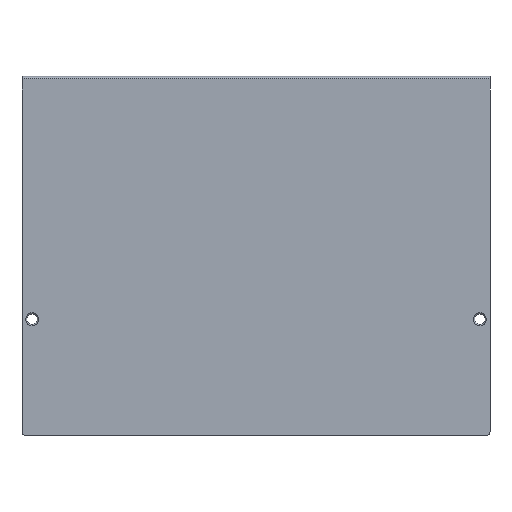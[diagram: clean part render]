
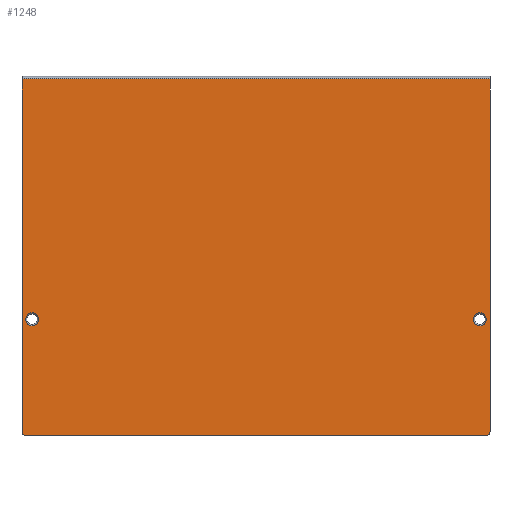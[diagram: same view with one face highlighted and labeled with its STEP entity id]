
A CAD part, front view. The second image highlights one B-rep face of the part: STEP entity #1248.
In plain terms, the highlighted planar face has unit normal (0, -1, 0).
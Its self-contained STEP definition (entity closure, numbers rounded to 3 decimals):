
#118=CARTESIAN_POINT('',(113.6,0.,-175.5));
#119=DIRECTION('',(0.,-1.,0.));
#120=DIRECTION('',(0.,0.,-1.));
#121=AXIS2_PLACEMENT_3D('',#118,#119,#120);
#127=DIRECTION('',(-1.,0.,0.));
#128=VECTOR('',#127,227.2);
#129=CARTESIAN_POINT('',(113.6,0.,-177.5));
#130=LINE('',#129,#128);
#134=CARTESIAN_POINT('',(-113.6,0.,-175.5));
#135=DIRECTION('',(0.,-1.,0.));
#136=DIRECTION('',(-1.,0.,0.));
#137=AXIS2_PLACEMENT_3D('',#134,#135,#136);
#142=DIRECTION('',(0.,0.,1.));
#143=VECTOR('',#142,174.2);
#144=CARTESIAN_POINT('',(-115.6,0.,-175.5));
#145=LINE('',#144,#143);
#149=DIRECTION('',(0.,0.,-1.));
#150=VECTOR('',#149,174.2);
#151=CARTESIAN_POINT('',(115.6,0.,-1.3));
#152=LINE('',#151,#150);
#156=CARTESIAN_POINT('',(-110.6,0.,-120.));
#157=DIRECTION('',(0.,1.,0.));
#158=DIRECTION('',(1.,0.,0.));
#159=AXIS2_PLACEMENT_3D('',#156,#157,#158);
#164=CARTESIAN_POINT('',(-110.6,0.,-120.));
#165=DIRECTION('',(0.,1.,0.));
#166=DIRECTION('',(-1.,0.,0.));
#167=AXIS2_PLACEMENT_3D('',#164,#165,#166);
#172=CARTESIAN_POINT('',(110.6,0.,-120.));
#173=DIRECTION('',(0.,1.,0.));
#174=DIRECTION('',(1.,0.,0.));
#175=AXIS2_PLACEMENT_3D('',#172,#173,#174);
#180=CARTESIAN_POINT('',(110.6,0.,-120.));
#181=DIRECTION('',(0.,1.,0.));
#182=DIRECTION('',(-1.,0.,0.));
#183=AXIS2_PLACEMENT_3D('',#180,#181,#182);
#225=DIRECTION('',(1.,0.,0.));
#226=VECTOR('',#225,231.2);
#227=CARTESIAN_POINT('',(-115.6,0.,-1.3));
#228=LINE('',#227,#226);
#1081=CARTESIAN_POINT('',(-115.6,0.,-1.3));
#1083=VERTEX_POINT('',#1081);
#1085=CARTESIAN_POINT('',(115.6,0.,-1.3));
#1087=VERTEX_POINT('',#1085);
#1161=CARTESIAN_POINT('',(113.6,0.,-177.5));
#1162=CARTESIAN_POINT('',(115.6,0.,-175.5));
#1163=VERTEX_POINT('',#1161);
#1164=VERTEX_POINT('',#1162);
#1169=CARTESIAN_POINT('',(-115.6,0.,-175.5));
#1170=CARTESIAN_POINT('',(-113.6,0.,-177.5));
#1171=VERTEX_POINT('',#1169);
#1172=VERTEX_POINT('',#1170);
#1177=CARTESIAN_POINT('',(-107.4,0.,-120.));
#1178=CARTESIAN_POINT('',(-113.8,0.,-120.));
#1179=VERTEX_POINT('',#1177);
#1180=VERTEX_POINT('',#1178);
#1185=CARTESIAN_POINT('',(113.8,0.,-120.));
#1186=CARTESIAN_POINT('',(107.4,0.,-120.));
#1187=VERTEX_POINT('',#1185);
#1188=VERTEX_POINT('',#1186);
#1217=CARTESIAN_POINT('',(0.,0.,0.));
#1218=DIRECTION('',(0.,1.,0.));
#1219=DIRECTION('',(1.,0.,0.));
#1220=AXIS2_PLACEMENT_3D('',#1217,#1218,#1219);
#1221=PLANE('',#1220);
#1223=ORIENTED_EDGE('',*,*,#1222,.F.);
#1225=ORIENTED_EDGE('',*,*,#1224,.T.);
#1227=ORIENTED_EDGE('',*,*,#1226,.F.);
#1229=ORIENTED_EDGE('',*,*,#1228,.T.);
#1231=ORIENTED_EDGE('',*,*,#1230,.T.);
#1233=ORIENTED_EDGE('',*,*,#1232,.T.);
#1234=EDGE_LOOP('',(#1223,#1225,#1227,#1229,#1231,#1233));
#1235=FACE_OUTER_BOUND('',#1234,.F.);
#1237=ORIENTED_EDGE('',*,*,#1236,.F.);
#1239=ORIENTED_EDGE('',*,*,#1238,.F.);
#1240=EDGE_LOOP('',(#1237,#1239));
#1241=FACE_BOUND('',#1240,.F.);
#1243=ORIENTED_EDGE('',*,*,#1242,.F.);
#1245=ORIENTED_EDGE('',*,*,#1244,.F.);
#1246=EDGE_LOOP('',(#1243,#1245));
#1247=FACE_BOUND('',#1246,.F.);
#122=CIRCLE('',#121,2.);
#138=CIRCLE('',#137,2.);
#160=CIRCLE('',#159,3.2);
#168=CIRCLE('',#167,3.2);
#176=CIRCLE('',#175,3.2);
#184=CIRCLE('',#183,3.2);
#1222=EDGE_CURVE('',#1163,#1164,#122,.T.);
#1224=EDGE_CURVE('',#1163,#1172,#130,.T.);
#1226=EDGE_CURVE('',#1171,#1172,#138,.T.);
#1228=EDGE_CURVE('',#1171,#1083,#145,.T.);
#1230=EDGE_CURVE('',#1083,#1087,#228,.T.);
#1232=EDGE_CURVE('',#1087,#1164,#152,.T.);
#1236=EDGE_CURVE('',#1179,#1180,#160,.T.);
#1238=EDGE_CURVE('',#1180,#1179,#168,.T.);
#1242=EDGE_CURVE('',#1187,#1188,#176,.T.);
#1244=EDGE_CURVE('',#1188,#1187,#184,.T.);
#1248=ADVANCED_FACE('',(#1235,#1241,#1247),#1221,.F.);
